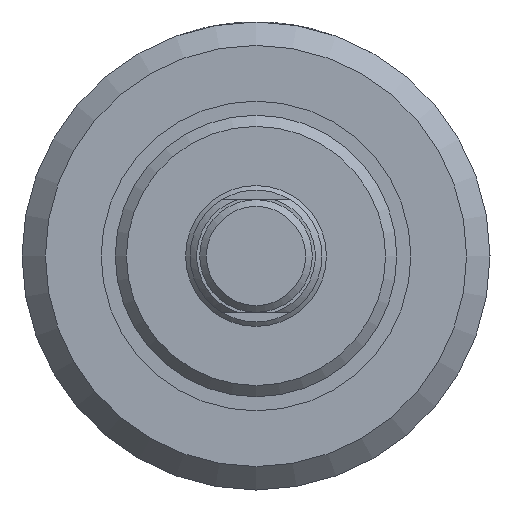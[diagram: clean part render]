
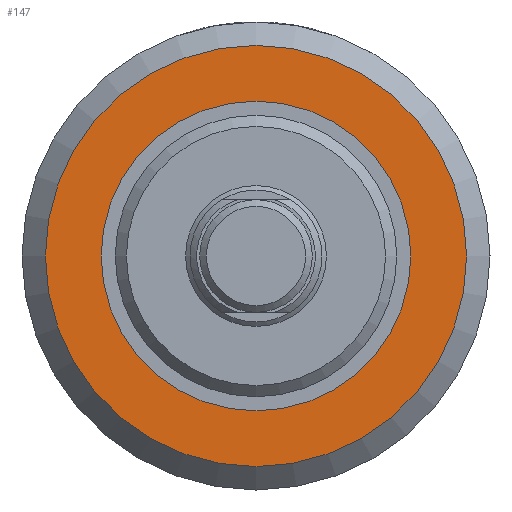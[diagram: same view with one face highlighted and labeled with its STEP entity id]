
A CAD part, left-side view. The second image highlights one B-rep face of the part: STEP entity #147.
In plain terms, the highlighted planar face has unit normal (-1, 0, 0).
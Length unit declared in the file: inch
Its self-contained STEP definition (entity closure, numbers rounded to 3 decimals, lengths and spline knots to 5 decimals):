
#147 = ADVANCED_FACE( '', ( #327, #328 ), #329, .F. );
#327 = FACE_OUTER_BOUND( '', #581, .T. );
#328 = FACE_BOUND( '', #582, .T. );
#329 = PLANE( '', #583 );
#581 = EDGE_LOOP( '', ( #856 ) );
#582 = EDGE_LOOP( '', ( #857 ) );
#583 = AXIS2_PLACEMENT_3D( '', #858, #859, #860 );
#856 = ORIENTED_EDGE( '', *, *, #1280, .F. );
#857 = ORIENTED_EDGE( '', *, *, #1281, .T. );
#858 = CARTESIAN_POINT( '', ( 0.813, 0.6875, 0. ) );
#859 = DIRECTION( '', ( 1., 0., 0. ) );
#860 = DIRECTION( '', ( 0., 0., -1. ) );
#1280 = EDGE_CURVE( '', #1468, #1468, #1469, .T. );
#1281 = EDGE_CURVE( '', #1470, #1470, #1471, .T. );
#1468 = VERTEX_POINT( '', #1736 );
#1469 = CIRCLE( '', #1737, 0.9351 );
#1470 = VERTEX_POINT( '', #1738 );
#1471 = CIRCLE( '', #1739, 0.6875 );
#1736 = CARTESIAN_POINT( '', ( 0.813, 0., -0.9351 ) );
#1737 = AXIS2_PLACEMENT_3D( '', #2155, #2156, #2157 );
#1738 = CARTESIAN_POINT( '', ( 0.813, 0., -0.6875 ) );
#1739 = AXIS2_PLACEMENT_3D( '', #2158, #2159, #2160 );
#2155 = CARTESIAN_POINT( '', ( 0.813, 0., 0. ) );
#2156 = DIRECTION( '', ( 1., 0., 0. ) );
#2157 = DIRECTION( '', ( 0., 0., -1. ) );
#2158 = CARTESIAN_POINT( '', ( 0.813, 0., 0. ) );
#2159 = DIRECTION( '', ( 1., 0., 0. ) );
#2160 = DIRECTION( '', ( 0., 0., -1. ) );
